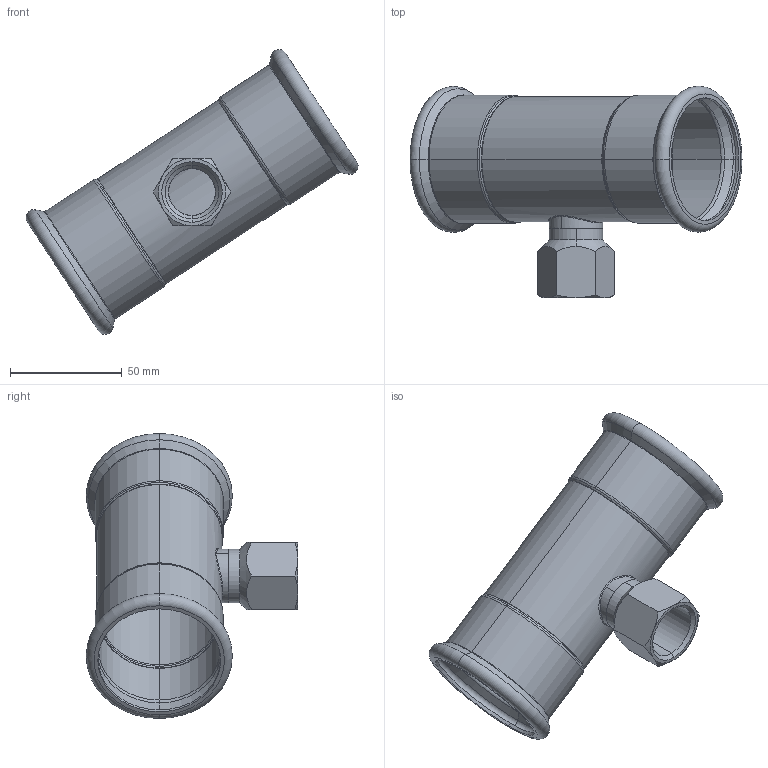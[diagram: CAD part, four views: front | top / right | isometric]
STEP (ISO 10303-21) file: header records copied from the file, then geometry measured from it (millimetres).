
FILE_DESCRIPTION (( 'STEP AP203' ), '1' );
FILE_NAME ('GDA5254.STEP', '2019-01-14T01:21:54', ( '' ), ( '' ), 'SwSTEP 2.0', 'SolidWorks 2015', '' );
FILE_SCHEMA (( 'CONFIG_CONTROL_DESIGN' ));
Length unit declared in the file: millimetre
Products named in the file (3): GDA5254; T(R)-¢ñ-54¡Á22''; ITC-I-03-22℅?
Assembly tree (2 placements, depth 2):
  GDA5254
    ITC-I-03-22℅?
    T(R)-¢ñ-54¡Á22''
Bounding box: 148.59 x 94.69 x 127.54 mm (x, y, z)
Volume: 47149.5 mm3; surface area: 57783 mm2
Topology: 2 solids, 2 shells, 103 faces, 218 edges, 122 vertices
Faces by surface type: torus 32, cone 28, cylinder 26, plane 13, bspline 4
Entity records: 4140 total; most frequent: CARTESIAN_POINT 1607, DIRECTION 526, ORIENTED_EDGE 436, AXIS2_PLACEMENT_3D 236, EDGE_CURVE 218, CIRCLE 132, VERTEX_POINT 122, EDGE_LOOP 112
